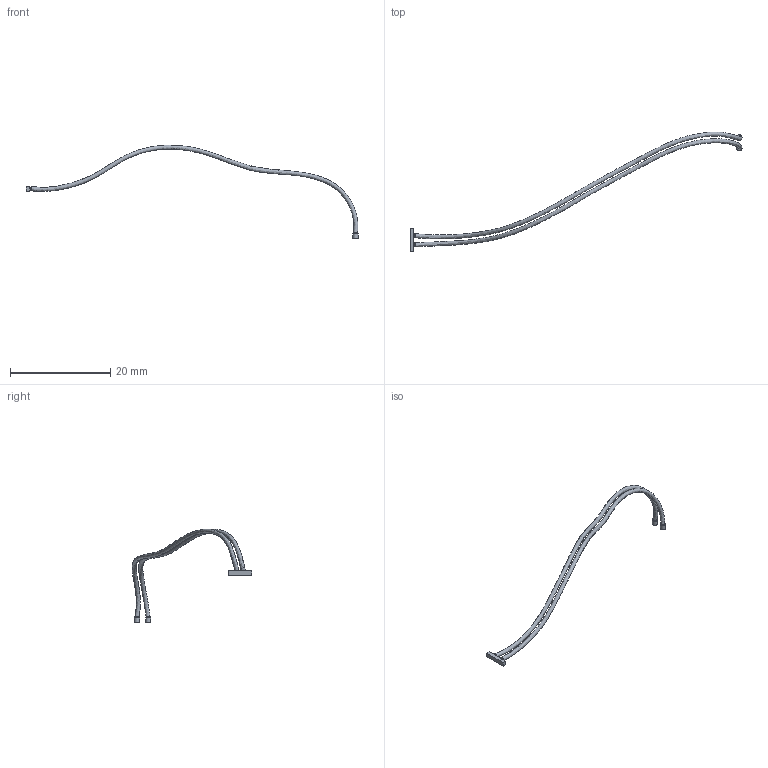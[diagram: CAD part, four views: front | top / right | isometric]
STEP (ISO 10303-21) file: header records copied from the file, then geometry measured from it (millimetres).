
FILE_DESCRIPTION(('Open CASCADE Model'),'2;1');
FILE_NAME('left-soldered-fsr-lead-reference.step','2026-11-14T19:54:30', ('Author'),('Open CASCADE'),'Open CASCADE STEP processor 8.0', 'Open CASCADE 8.0','Unknown');
FILE_SCHEMA(('AP242_MANAGED_MODEL_BASED_3D_ENGINEERING_MIM_LF {1 0 10303 442 1 1 4 }' ));
Length unit declared in the file: millimetre
Products named in the file (1): Left Soldered FSR Lead Reference
Bounding box: 66.4 x 23.97 x 18.74 mm (x, y, z)
Volume: 88.5 mm3; surface area: 441.2 mm2
Topology: 11 solids, 11 shells, 42 faces, 60 edges, 40 vertices
Faces by surface type: plane 34, cylinder 6, bspline 2
Full cylindrical faces by diameter (mm): 0.4 x2, 0.6 x2, 1.04 x2
Entity records: 6771 total; most frequent: CARTESIAN_POINT 5323, DIRECTION 264, LINE 146, VECTOR 146, ORIENTED_EDGE 120, PCURVE 120, DEFINITIONAL_REPRESENTATION 120, EDGE_CURVE 60
